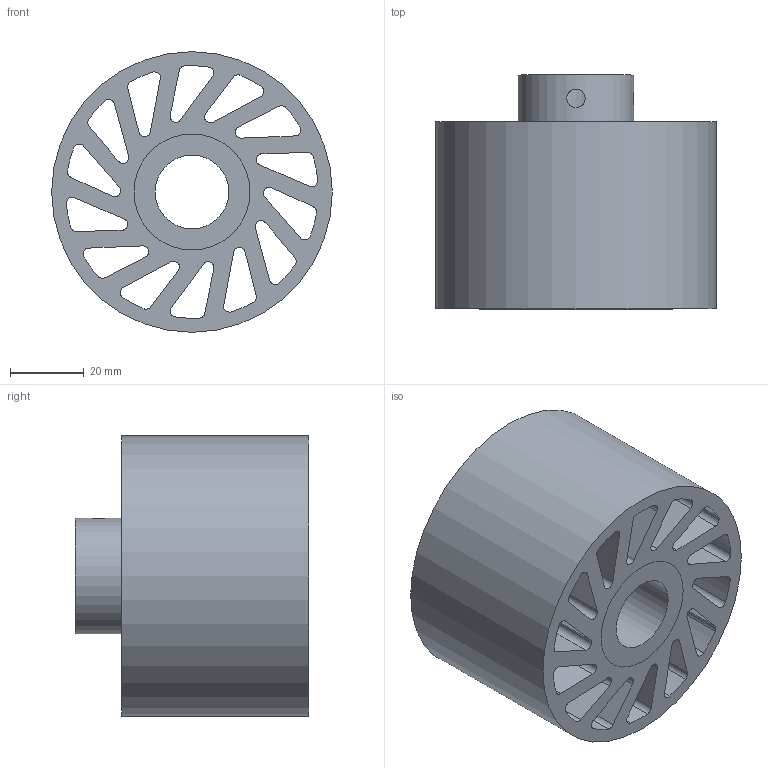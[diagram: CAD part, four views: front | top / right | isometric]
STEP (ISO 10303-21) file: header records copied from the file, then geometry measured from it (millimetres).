
FILE_DESCRIPTION(/* description */ (''),/* implementation_level */ '2;1');
FILE_NAME(/* name */ 'NCWM-720-XXX-YYY.stp',/* time_stamp */ '2023-02-02T16:19:33-06:00',/* author */ ('AG'),/* organization */ ('Meridian Laboratory'),/* preprocessor_version */ 'ST-DEVELOPER v18.1',/* originating_system */ 'Autodesk Inventor 2022',/* authorisation */ '');
FILE_SCHEMA (('AUTOMOTIVE_DESIGN { 1 0 10303 214 3 1 1 }'));
Length unit declared in the file: millimetre
Products named in the file (1): NCWM-640
Bounding box: 76.2 x 63.5 x 76.2 mm (x, y, z)
Volume: 150665 mm3; surface area: 64028.3 mm2
Topology: 2 solids, 2 shells, 94 faces, 274 edges, 184 vertices
Faces by surface type: cylinder 62, plane 32
Full cylindrical faces by diameter (mm): 5 x2, 20.025 x1, 31.496 x2, 76.2 x1
Entity records: 3510 total; most frequent: CARTESIAN_POINT 689, DIRECTION 576, ORIENTED_EDGE 548, EDGE_CURVE 274, AXIS2_PLACEMENT_3D 215, VERTEX_POINT 184, LINE 146, VECTOR 146
